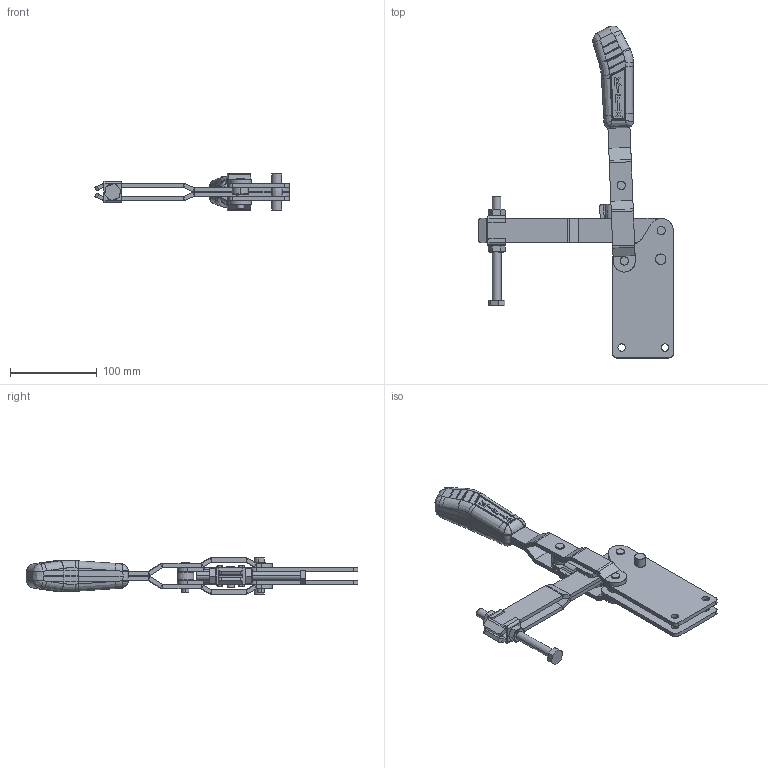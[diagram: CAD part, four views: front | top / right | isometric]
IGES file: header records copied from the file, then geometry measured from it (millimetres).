
Start section: SolidWorks IGES file using analytic representation for surfaces
Global section: file name: C:\Projetos\Grampos\KF-641\KF-641 RB\KF-641 RB.IGS; native system: SolidWorks 2013; preprocessor: SolidWorks 2013; author: Ricardo; date: 140813.174402; units: millimetre
Bounding box: 224.28 x 382.63 x 41.6 mm (x, y, z)
Surface area: 154198.3 mm2 (no closed solid volume)
Topology: 0 solids, 0 shells, 873 faces, 9332 edges, 9313 vertices
Faces by surface type: bspline 517, revolution 356
